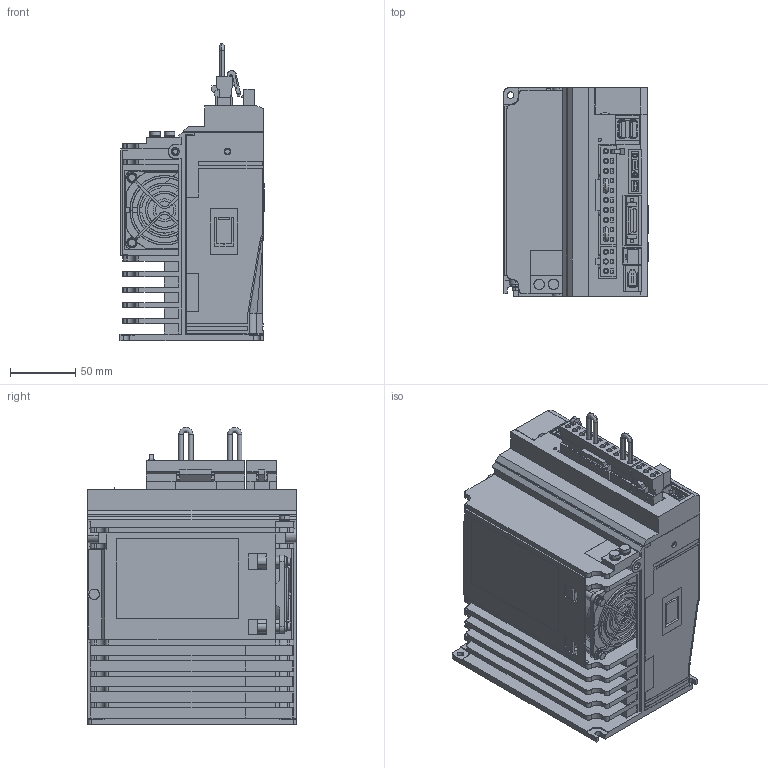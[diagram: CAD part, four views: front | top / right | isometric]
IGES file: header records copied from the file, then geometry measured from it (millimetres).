
Start section: SolidWorks IGES file using analytic representation for surfaces
Global section: file name: C:\YASKAWA\sgdv_5r4d1_a.IGS; native system: SolidWorks 2006 by SolidWorks Corporation; preprocessor: SolidWorks 2006 by SolidWorks Corporation; author: yamanouchi; date: 080617.173038; units: millimetre
Bounding box: 110.5 x 160 x 228 mm (x, y, z)
Surface area: 250228.3 mm2 (no closed solid volume)
Topology: 0 solids, 0 shells, 2047 faces, 18145 edges, 18143 vertices
Faces by surface type: bspline 1733, revolution 314
